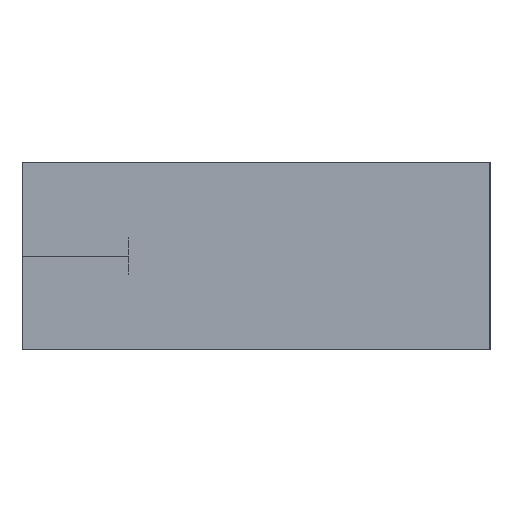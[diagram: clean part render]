
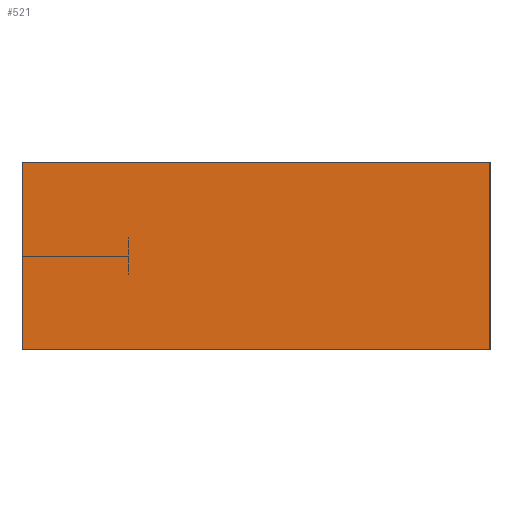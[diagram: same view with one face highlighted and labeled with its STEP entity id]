
A CAD part, left-side view. The second image highlights one B-rep face of the part: STEP entity #521.
In plain terms, the highlighted planar face has unit normal (-1, 0, 0).
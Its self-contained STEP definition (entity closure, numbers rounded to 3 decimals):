
#319 = EDGE_CURVE( '', #351, #453, #830, .T. );
#329 = EDGE_CURVE( '', #351, #479, #841, .T. );
#351 = VERTEX_POINT( '', #863 );
#453 = VERTEX_POINT( '', #973 );
#479 = VERTEX_POINT( '', #1001 );
#491 = VERTEX_POINT( '', #1014 );
#521 = ADVANCED_FACE( '', ( #1047 ), #1048, .T. );
#631 = EDGE_CURVE( '', #453, #491, #1166, .T. );
#725 = EDGE_CURVE( '', #479, #491, #1274, .T. );
#830 = LINE( '', #1389, #1390 );
#841 = LINE( '', #1406, #1407 );
#863 = CARTESIAN_POINT( '', ( -4., 0., 7. ) );
#973 = CARTESIAN_POINT( '', ( -4., 0., -7. ) );
#1001 = CARTESIAN_POINT( '', ( -4., -35., 7. ) );
#1014 = CARTESIAN_POINT( '', ( -4., -35., -7. ) );
#1047 = FACE_OUTER_BOUND( '', #1710, .T. );
#1048 = PLANE( '', #1711 );
#1166 = LINE( '', #1876, #1877 );
#1274 = LINE( '', #2028, #2029 );
#1389 = CARTESIAN_POINT( '', ( -4., 0., 7. ) );
#1390 = VECTOR( '', #2144, 1. );
#1406 = CARTESIAN_POINT( '', ( -4., 0., 7. ) );
#1407 = VECTOR( '', #2155, 1. );
#1710 = EDGE_LOOP( '', ( #2336, #2337, #2338, #2339 ) );
#1711 = AXIS2_PLACEMENT_3D( '', #2340, #2341, #2342 );
#1876 = CARTESIAN_POINT( '', ( -4., 0., -7. ) );
#1877 = VECTOR( '', #2446, 1. );
#2028 = CARTESIAN_POINT( '', ( -4., -35., 7. ) );
#2029 = VECTOR( '', #2591, 1. );
#2144 = DIRECTION( '', ( 0., 0., -1. ) );
#2155 = DIRECTION( '', ( 0., -1., 0. ) );
#2336 = ORIENTED_EDGE( '', *, *, #631, .T. );
#2337 = ORIENTED_EDGE( '', *, *, #725, .F. );
#2338 = ORIENTED_EDGE( '', *, *, #329, .F. );
#2339 = ORIENTED_EDGE( '', *, *, #319, .T. );
#2340 = CARTESIAN_POINT( '', ( -4., 0., 7. ) );
#2341 = DIRECTION( '', ( -1., 0., 0. ) );
#2342 = DIRECTION( '', ( 0., 1., 0. ) );
#2446 = DIRECTION( '', ( 0., -1., 0. ) );
#2591 = DIRECTION( '', ( 0., 0., -1. ) );
